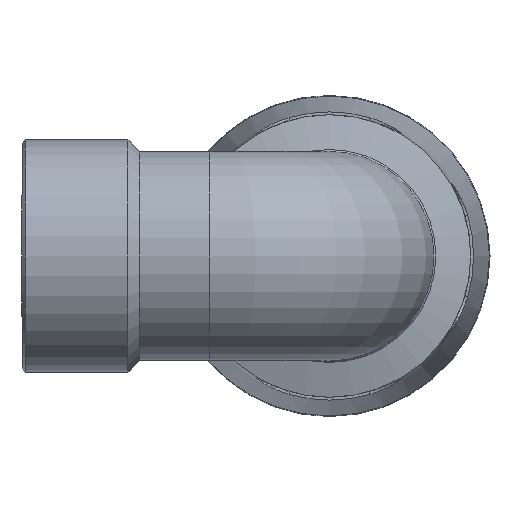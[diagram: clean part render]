
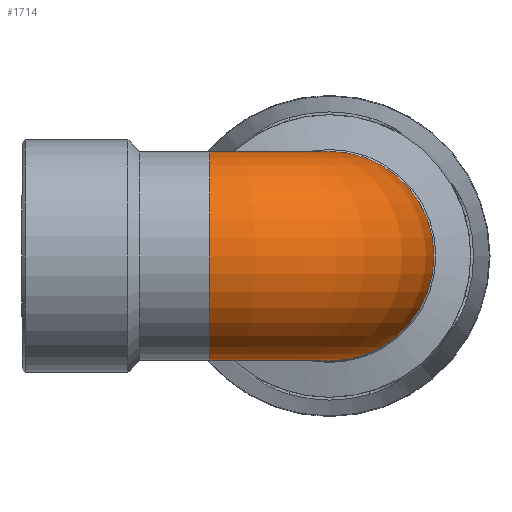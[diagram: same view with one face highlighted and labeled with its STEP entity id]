
A CAD part, left-side view. The second image highlights one B-rep face of the part: STEP entity #1714.
In plain terms, the highlighted toroidal (fillet/blend) face has major radius 26.072 mm and minor radius 22.787 mm.
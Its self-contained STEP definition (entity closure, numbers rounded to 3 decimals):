
#356=FACE_BOUND('',#509,.T.);
#384=FACE_OUTER_BOUND('',#508,.T.);
#508=EDGE_LOOP('',(#1160));
#509=EDGE_LOOP('',(#1161));
#615=CIRCLE('',#1814,22.787);
#621=CIRCLE('',#1824,22.787);
#710=VERTEX_POINT('',#2509);
#716=VERTEX_POINT('',#2525);
#869=EDGE_CURVE('',#710,#710,#615,.T.);
#875=EDGE_CURVE('',#716,#716,#621,.T.);
#1160=ORIENTED_EDGE('',*,*,#869,.F.);
#1161=ORIENTED_EDGE('',*,*,#875,.T.);
#1586=TOROIDAL_SURFACE('',#1868,26.072,22.787);
#1714=ADVANCED_FACE('',(#384,#356),#1586,.T.);
#1814=AXIS2_PLACEMENT_3D('',#2510,#2025,#2026);
#1824=AXIS2_PLACEMENT_3D('',#2526,#2045,#2046);
#1868=AXIS2_PLACEMENT_3D('',#2604,#2133,#2134);
#2025=DIRECTION('center_axis',(1.,0.,0.));
#2026=DIRECTION('ref_axis',(0.,-1.,0.));
#2045=DIRECTION('center_axis',(0.,-1.,0.));
#2046=DIRECTION('ref_axis',(-1.,0.,0.));
#2133=DIRECTION('center_axis',(0.,0.,1.));
#2134=DIRECTION('ref_axis',(1.,0.,0.));
#2509=CARTESIAN_POINT('',(26.072,22.787,0.));
#2510=CARTESIAN_POINT('Origin',(26.072,0.,0.));
#2525=CARTESIAN_POINT('',(22.787,26.072,0.));
#2526=CARTESIAN_POINT('Origin',(0.,26.072,0.));
#2604=CARTESIAN_POINT('Origin',(26.072,26.072,0.));
